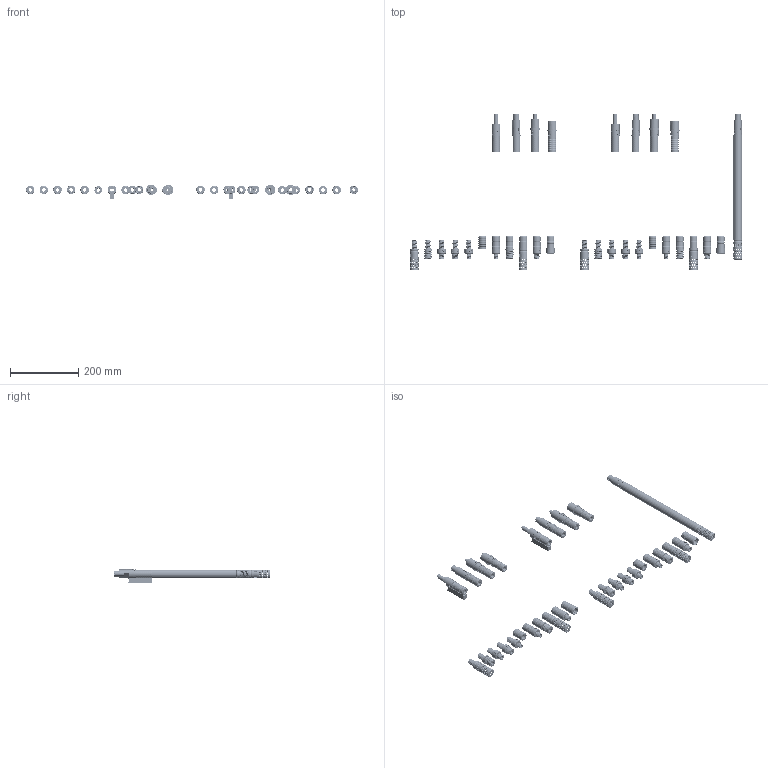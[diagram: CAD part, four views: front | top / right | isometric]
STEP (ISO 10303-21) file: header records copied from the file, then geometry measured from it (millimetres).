
FILE_DESCRIPTION(/* description */ (''),/* implementation_level */ '2;1');
FILE_NAME(/* name */ '//freenas/assets/3D.Printing/Firearms/Barrel Liner/AWCY Proto Barrel/AWCY Proto Barrel v1.1/STEP Files/Proto Barrel LATEST v78.step',/* time_stamp */ '2022-01-21T18:23:32-05:00',/* author */ (''),/* organization */ (''),/* preprocessor_version */ 'ST-DEVELOPER v18.1',/* originating_system */ 'Autodesk Translation Framework v10.10.0.1391',/* authorisation */ '');
FILE_SCHEMA (('AUTOMOTIVE_DESIGN { 1 0 10303 214 3 1 1 }'));
Length unit declared in the file: millimetre
Products named in the file (7): Proto Barrel LATEST; Proto Barrel Parts; Muzzle; Muzzle .375"; Barrel Retainers; Barrel Retainers .375"; Proto Barrel Assembled
Assembly tree (6 placements, depth 3):
  Proto Barrel LATEST
    Proto Barrel Parts
      Muzzle
      Muzzle .375"
      Barrel Retainers
      Barrel Retainers .375"
      Proto Barrel Assembled
Bounding box: 975.07 x 458.55 x 42.83 mm (x, y, z)
Volume: 697294.7 mm3; surface area: 391376.7 mm2
Topology: 39 solids, 41 shells, 14732 faces, 42163 edges, 27981 vertices
Faces by surface type: bspline 10917, cylinder 1715, plane 1705, torus 199, cone 196
Full cylindrical faces by diameter (mm): 2 x2, 3.5 x240, 4 x2, 7 x2, 8 x1, 8.4 x2, 9.9 x36, 10 x1, 10.3 x17, 10.5 x32, 11.4 x2, 11.59 x60, 12.1 x2, 12.5 x2, 12.591 x64, 13.086 x100, 13.627 x20, 14.585 x52, 15 x2, 15.603 x100, 15.753 x52, 15.875 x20, 15.979 x10, 17.44 x3, 18.758 x10, 20 x23, 21 x8, 21.291 x2, 22.8 x117, 23 x16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
Entity records: 905101 total; most frequent: CARTESIAN_POINT 600313, ORIENTED_EDGE 84326, EDGE_CURVE 42163, VERTEX_POINT 27981, DIRECTION 26257, B_SPLINE_CURVE_WITH_KNOTS 25270, EDGE_LOOP 15776, LINE 15051
